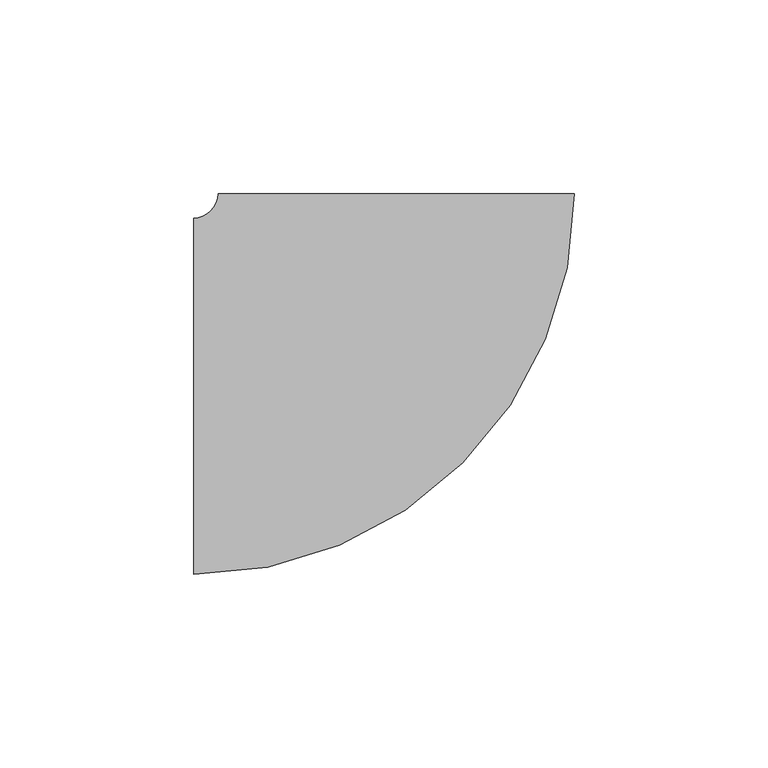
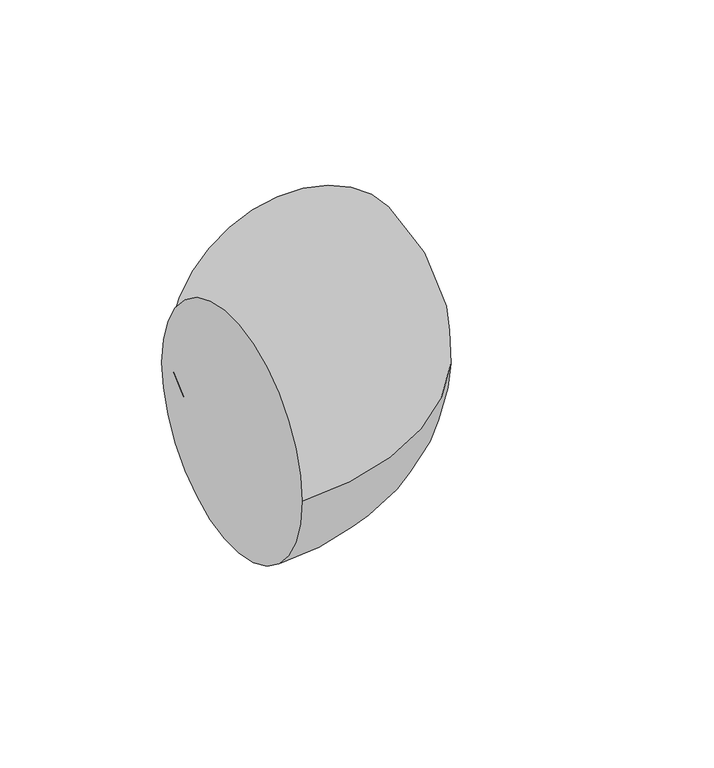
"""IFC4 building model written with IfcOpenShell, lengths in millimetres: pipe fitting geometry, M_Codo - Genérico : Estándar."""

from ifc_helpers import new_model, si_unit, point, frame, origin, place, context, project, spatial, circle_curve, ellipse_curve, trimmed, source, transform, mapped, element, save
from ifc_brep_helpers import plane_surface, revolved_surface, advanced_brep


def pipe_fitting_ce1e9cd7(model_context):
    return source(origin(), model_context, "Body", "AdvancedBrep", [
        advanced_brep(
        [(-52.3874817, -46.0375, 0.0), (-52.3874817, 46.0375, 0.0), (46.0375183, 52.3874657, 0.0), (-46.0374817, 52.3874978, 0.0)],
        [
            (0, 1, circle_curve(frame((-52.3874817, 0.0, 0.0), z_axis=(-1.0, 0.0, 0.0), x_axis=(0.0, 1.0, 0.0)), 46.0375)),
            (1, 0, circle_curve(frame((-52.3874817, 0.0, 0.0), z_axis=(-1.0, 0.0, 0.0), x_axis=(0.0, 1.0, 0.0)), 46.0375)),
            (2, 3, circle_curve(frame((1.83e-05, 52.3874817, 0.0), z_axis=(3.4896490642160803e-07, 0.9999999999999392, 0.0), x_axis=(-0.9999999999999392, 3.4896490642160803e-07, 0.0)), 46.0375)),
            (3, 2, circle_curve(frame((1.83e-05, 52.3874817, 0.0), z_axis=(3.4896490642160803e-07, 0.9999999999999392, 0.0), x_axis=(-0.9999999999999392, 3.4896490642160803e-07, 0.0)), 46.0375)),
            (3, 1, circle_curve(frame((-52.3874817, 52.3875, 0.0), z_axis=(0.0, 0.0, -1.0), x_axis=(0.0, -1.0, 0.0)), 6.35)),
            (0, 2, circle_curve(frame((-52.3874817, 52.3875, 0.0), z_axis=(0.0, 0.0, 1.0), x_axis=(0.0, -1.0, 0.0)), 98.425)),
        ],
        [
            plane_surface(frame((-52.3874817, 0.0, 0.0), z_axis=(-1.0, 0.0, 0.0), x_axis=(0.0, 0.0, 1.0))),
            plane_surface(frame((1.83e-05, 52.3874817, 0.0), z_axis=(3.4896490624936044e-07, 0.9999999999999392, 0.0), x_axis=(0.0, 0.0, 1.0))),
            revolved_surface(trimmed(ellipse_curve(frame((-52.3874817, 0.0, 0.0), z_axis=(-1.0, 0.0, 0.0), x_axis=(0.0, 1.0, 0.0)), 46.0375, 46.0375), [point((-52.3874817, -46.0375, 0.0))], [point((-52.3874817, 46.0375, 0.0))], True, "CARTESIAN"), (-52.3874817, 52.3875, 0.0), (0.0, 0.0, 1.0)),
            revolved_surface(trimmed(ellipse_curve(frame((-52.3874817, 0.0, 0.0), z_axis=(-1.0, 0.0, 0.0), x_axis=(0.0, 1.0, 0.0)), 46.0375, 46.0375), [point((-52.3874817, 46.0375, 0.0))], [point((-52.3874817, -46.0375, 0.0))], True, "CARTESIAN"), (-52.3874817, 52.3875, 0.0), (0.0, 0.0, 1.0)),
        ],
        [
            (0, [[1, 2]]),
            (1, [[3, 4]]),
            (2, [[5, -1, 6, -4]]),
            (3, [[-6, -2, -5, -3]]),
        ],
    ),
    ])


if __name__ == "__main__":
    model = new_model("IFC4")
    model_context = context("Model", 3, world=origin())
    ifc_project = project(units=[si_unit("LENGTHUNIT", "METRE", prefix="MILLI")], contexts=[model_context])
    site = spatial("IfcSite", under=ifc_project)
    building = spatial("IfcBuilding", under=site)
    placement = place(None, origin())
    pipe_fitting_shape = pipe_fitting_ce1e9cd7(model_context)
    element("IfcPipeFitting", 1, ObjectType="M_Codo - Genérico : Estándar", at=placement, inside=building, context=model_context, shape_type="MappedRepresentation", body=[
        mapped(pipe_fitting_shape, transform((0.0, 0.0, 0.0), x_axis=(1.0, 0.0, 0.0), y_axis=(0.0, 1.0, 0.0), z_axis=(0.0, 0.0, 1.0))),
    ])
    save(model, "model.ifc")
